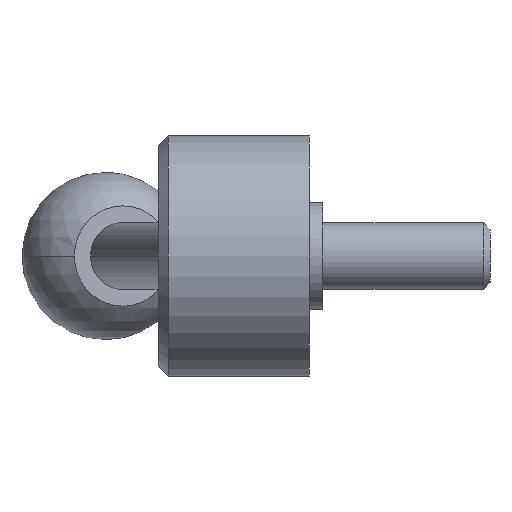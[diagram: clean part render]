
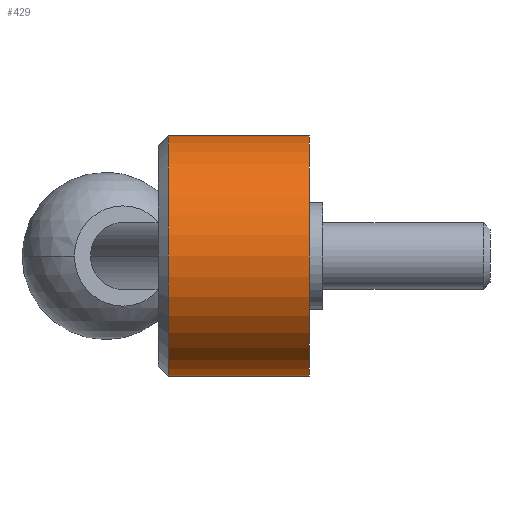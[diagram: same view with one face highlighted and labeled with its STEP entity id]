
A CAD part, left-side view. The second image highlights one B-rep face of the part: STEP entity #429.
In plain terms, the highlighted cylindrical face has radius 18 mm (diameter 36 mm), a partial arc.
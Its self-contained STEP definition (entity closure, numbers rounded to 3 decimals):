
#53 = EDGE_CURVE ( 'NONE', #471, #662, #746, .T. ) ;
#69 = ORIENTED_EDGE ( 'NONE', *, *, #870, .T. ) ;
#102 = DIRECTION ( 'NONE',  ( 0., 0., -1. ) ) ;
#103 = EDGE_CURVE ( 'NONE', #679, #811, #800, .T. ) ;
#238 = VECTOR ( 'NONE', #509, 1000. ) ;
#244 = CARTESIAN_POINT ( 'NONE',  ( 0., 21.1, 0. ) ) ;
#247 = CARTESIAN_POINT ( 'NONE',  ( 0., 21.1, 18. ) ) ;
#260 = ORIENTED_EDGE ( 'NONE', *, *, #103, .F. ) ;
#264 = AXIS2_PLACEMENT_3D ( 'NONE', #790, #719, #475 ) ;
#322 = AXIS2_PLACEMENT_3D ( 'NONE', #244, #783, #498 ) ;
#339 = ORIENTED_EDGE ( 'NONE', *, *, #53, .T. ) ;
#342 = CARTESIAN_POINT ( 'NONE',  ( 0., 0., -18. ) ) ;
#352 = AXIS2_PLACEMENT_3D ( 'NONE', #510, #647, #102 ) ;
#370 = CARTESIAN_POINT ( 'NONE',  ( 0., 0., 18. ) ) ;
#429 = ADVANCED_FACE ( 'NONE', ( #760 ), #714, .T. ) ;
#441 = CARTESIAN_POINT ( 'NONE',  ( 0., 21.1, -18. ) ) ;
#471 = VERTEX_POINT ( 'NONE', #247 ) ;
#475 = DIRECTION ( 'NONE',  ( 0., 0., -1. ) ) ;
#498 = DIRECTION ( 'NONE',  ( 0., 0., 1. ) ) ;
#509 = DIRECTION ( 'NONE',  ( 0., -1., 0. ) ) ;
#510 = CARTESIAN_POINT ( 'NONE',  ( 0., 0., 0. ) ) ;
#552 = LINE ( 'NONE', #623, #643 ) ;
#580 = LINE ( 'NONE', #370, #238 ) ;
#596 = ORIENTED_EDGE ( 'NONE', *, *, #733, .F. ) ;
#623 = CARTESIAN_POINT ( 'NONE',  ( 0., 0., -18. ) ) ;
#643 = VECTOR ( 'NONE', #826, 1000. ) ;
#647 = DIRECTION ( 'NONE',  ( 0., -1., 0. ) ) ;
#662 = VERTEX_POINT ( 'NONE', #441 ) ;
#679 = VERTEX_POINT ( 'NONE', #846 ) ;
#702 = EDGE_LOOP ( 'NONE', ( #596, #339, #69, #260 ) ) ;
#714 = CYLINDRICAL_SURFACE ( 'NONE', #352, 18. ) ;
#719 = DIRECTION ( 'NONE',  ( 0., -1., 0. ) ) ;
#733 = EDGE_CURVE ( 'NONE', #471, #679, #580, .T. ) ;
#746 = CIRCLE ( 'NONE', #322, 18. ) ;
#760 = FACE_OUTER_BOUND ( 'NONE', #702, .T. ) ;
#783 = DIRECTION ( 'NONE',  ( 0., -1., 0. ) ) ;
#790 = CARTESIAN_POINT ( 'NONE',  ( 0., 0., 0. ) ) ;
#800 = CIRCLE ( 'NONE', #264, 18. ) ;
#811 = VERTEX_POINT ( 'NONE', #342 ) ;
#826 = DIRECTION ( 'NONE',  ( 0., -1., 0. ) ) ;
#846 = CARTESIAN_POINT ( 'NONE',  ( 0., 0., 18. ) ) ;
#870 = EDGE_CURVE ( 'NONE', #662, #811, #552, .T. ) ;
